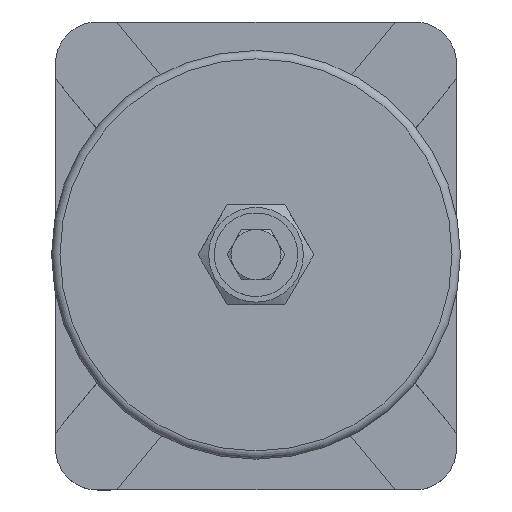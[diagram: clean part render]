
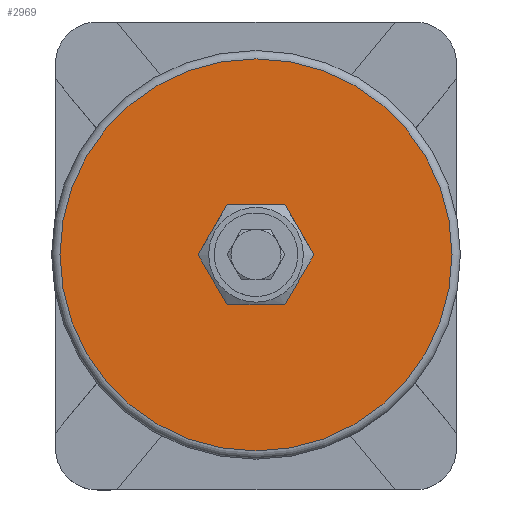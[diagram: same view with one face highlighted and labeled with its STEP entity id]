
A CAD part, top view. The second image highlights one B-rep face of the part: STEP entity #2969.
In plain terms, the highlighted planar face has unit normal (0, 0, 1).
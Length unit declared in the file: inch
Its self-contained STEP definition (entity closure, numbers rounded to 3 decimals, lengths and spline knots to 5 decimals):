
#140=FACE_BOUND('',#513,.T.);
#197=CIRCLE('',#3174,2.93218);
#199=CIRCLE('',#3178,0.4375);
#328=FACE_OUTER_BOUND('',#512,.T.);
#512=EDGE_LOOP('',(#2046));
#513=EDGE_LOOP('',(#2047));
#1219=VERTEX_POINT('',#4396);
#1221=VERTEX_POINT('',#4402);
#1534=EDGE_CURVE('',#1219,#1219,#197,.T.);
#1536=EDGE_CURVE('',#1221,#1221,#199,.T.);
#2046=ORIENTED_EDGE('',*,*,#1534,.F.);
#2047=ORIENTED_EDGE('',*,*,#1536,.F.);
#2660=PLANE('',#3177);
#2969=ADVANCED_FACE('',(#328,#140),#2660,.T.);
#3174=AXIS2_PLACEMENT_3D('',#4397,#3571,#3572);
#3177=AXIS2_PLACEMENT_3D('',#4401,#3577,#3578);
#3178=AXIS2_PLACEMENT_3D('',#4403,#3579,#3580);
#3571=DIRECTION('center_axis',(0.,0.,
-1.));
#3572=DIRECTION('ref_axis',(1.,0.,0.));
#3577=DIRECTION('center_axis',(0.,0.,
1.));
#3578=DIRECTION('ref_axis',(-1.,0.,0.));
#3579=DIRECTION('center_axis',(0.,0.,
1.));
#3580=DIRECTION('ref_axis',(-1.,0.,0.));
#4396=CARTESIAN_POINT('',(-2.93218,0.,10.));
#4397=CARTESIAN_POINT('Origin',(0.,0.,
10.));
#4401=CARTESIAN_POINT('Origin',(-1.75,0.,10.));
#4402=CARTESIAN_POINT('',(-0.4375,0.,10.));
#4403=CARTESIAN_POINT('Origin',(0.,0.,
10.));
